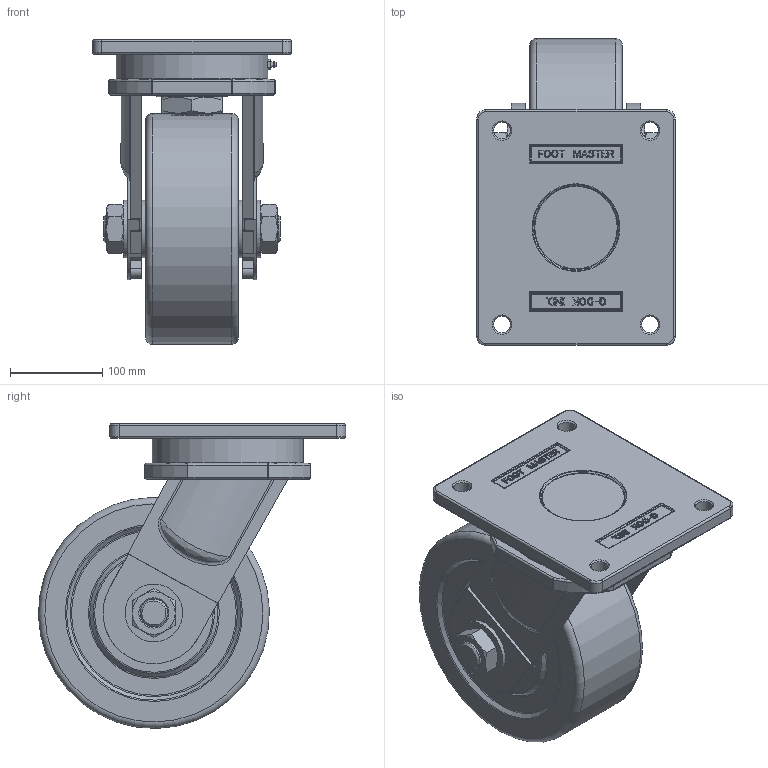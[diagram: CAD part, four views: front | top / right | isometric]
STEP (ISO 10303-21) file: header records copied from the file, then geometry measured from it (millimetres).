
FILE_DESCRIPTION((''),'2;1');
FILE_NAME('C:\Documents and Settings\Administrator\바탕 화면\3D STEP\UGXT-SERIES\UGXT-250\UGXT-250-SF.stp','2010-12-27T15:17:47',('Administrator'),(''),'Autodesk Inventor 2009','Autodesk Inventor 2009','');
FILE_SCHEMA(('AUTOMOTIVE_DESIGN { 1 0 10303 214 1 1 1 1 }'));
Length unit declared in the file: millimetre
Products named in the file (1): UGXT-250-SF
Bounding box: 215 x 332.48 x 329.98 mm (x, y, z)
Volume: 7176805.7 mm3; surface area: 661757.7 mm2
Topology: 16 solids, 16 shells, 821 faces, 2004 edges, 1263 vertices
Faces by surface type: plane 352, cylinder 162, bspline 154, cone 83, torus 54, sphere 16
Full cylindrical faces by diameter (mm): 1 x4, 6 x2, 18 x4, 30 x4, 30.5 x2, 38 x2, 38.5 x2, 48 x2, 48.5 x1, 49.8 x1, 50 x7, 60 x2, 62.5 x4, 63.334 x8, 66 x1, 76.666 x8, 78 x2, 80 x2, 90 x6, 109.6 x1, 110 x1, 111.2 x1, 112 x1, 145 x2, 148 x1, 152 x1, 156 x1, 164 x1, 170 x1, 250.001 x1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
Entity records: 25277 total; most frequent: CARTESIAN_POINT 8082, ORIENTED_EDGE 3398, DIRECTION 3233, EDGE_CURVE 1699, VERTEX_POINT 1179, AXIS2_PLACEMENT_3D 1169, EDGE_LOOP 1128, VECTOR 895
